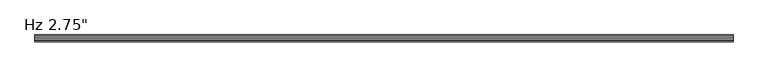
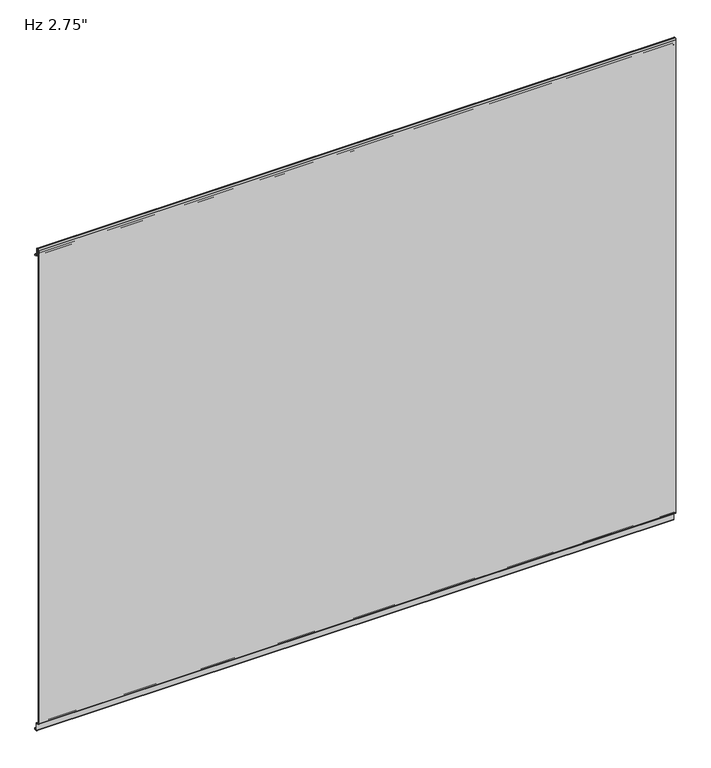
"""IFC4 building model written with IfcOpenShell, lengths in millimetres: plate geometry."""

from ifc_helpers import new_model, si_unit, frame, origin, place, context, project, spatial, polyline, circle_curve, source, transform, mapped, element, save
from ifc_brep_helpers import plane_surface, cylinder_surface, revolved_surface, advanced_brep


def plate_c9c1584d(model_context):
    return source(origin(), model_context, "Body", "AdvancedBrep", [
        advanced_brep(
        [(-730.0, -66.9223811, 3.8501063), (-730.0, -64.6308685, 3.8501063), (-730.0, -60.6535232, -0.1272391), (-730.0, -60.6535232, -15.7237514), (-730.0, -60.065666, -16.3116086), (-730.0, -56.9941346, -16.3116086), (-730.0, -56.4062635, -15.7237374), (-730.0, -56.4062635, -13.3687064), (-730.0, -55.4062599, -13.3687064), (-730.0, -55.4062599, -15.7237419), (-730.0, -56.9941364, -17.3116185), (-730.0, -60.0656851, -17.3116185), (-730.0, -61.6535616, -15.7237419), (-730.0, -61.6535616, -0.1273159), (-730.0, -64.6308302, 2.8499526), (-730.0, -66.922714, 2.8499526), (-730.0, -69.8999825, 5.8272211), (-730.0, -69.9, 1150.8100652), (-730.0, -66.9227315, 1153.7873337), (-730.0, -65.8806329, 1153.7873337), (-730.0, -62.9033644, 1150.8100652), (-730.0, -62.9033644, 1136.6216801), (-730.0, -61.3154878, 1135.0338036), (-730.0, -56.9950697, 1135.0338036), (-730.0, -55.4066023, 1133.3929042), (-730.0, -55.4066023, 1131.0482432), (-730.0, -56.4060472, 1131.0482432), (-730.0, -56.4060472, 1133.4253599), (-730.0, -56.9950842, 1134.0338971), (-730.0, -61.3153166, 1134.0338971), (-730.0, -63.9030166, 1136.6215971), (-730.0, -63.9030166, 1150.8107568), (-730.0, -65.880978, 1152.7887182), (-730.0, -66.92341, 1152.7887182), (-730.0, -68.8992912, 1150.812837), (-730.0, -68.8992912, 5.8270163), (730.0, -66.9223811, 3.8501063), (730.0, -68.8992912, 5.8270163), (730.0, -68.8992912, 1150.812837), (730.0, -66.92341, 1152.7887182), (730.0, -65.880978, 1152.7887182), (730.0, -63.9030166, 1150.8107568), (730.0, -63.9030166, 1136.6215971), (730.0, -61.3153166, 1134.0338971), (730.0, -56.9950842, 1134.0338971), (730.0, -56.4060472, 1133.4253599), (730.0, -56.4060472, 1131.0482432), (730.0, -55.4066023, 1131.0482432), (730.0, -55.4066023, 1133.3929042), (730.0, -56.9950697, 1135.0338036), (730.0, -61.3154878, 1135.0338036), (730.0, -62.9033644, 1136.6216801), (730.0, -62.9033644, 1150.8100652), (730.0, -65.8806329, 1153.7873337), (730.0, -66.9227315, 1153.7873337), (730.0, -69.9, 1150.8100652), (730.0, -69.9, 5.8272211), (730.0, -66.922714, 2.8499526), (730.0, -64.6308302, 2.8499526), (730.0, -61.6535616, -0.1273159), (730.0, -61.6535616, -15.7237419), (730.0, -60.0656851, -17.3116185), (730.0, -56.9941364, -17.3116185), (730.0, -55.4062599, -15.7237419), (730.0, -55.4062599, -13.3687064), (730.0, -56.4062635, -13.3687064), (730.0, -56.4062635, -15.7237374), (730.0, -56.9941346, -16.3116086), (730.0, -60.065666, -16.3116086), (730.0, -60.6535232, -15.7237514), (730.0, -60.6535232, -0.1272391), (730.0, -64.6308685, 3.8501063)],
        [
            (0, 1),
            (1, 2, circle_curve(frame((-730.0, -64.6308685, -0.1272391), z_axis=(-1.0, 0.0, 0.0), x_axis=(0.0, 0.0, -1.0)), 3.9773454)),
            (2, 3),
            (3, 4, circle_curve(frame((-730.0, -60.065666, -15.7237514), z_axis=(1.0, 0.0, 0.0), x_axis=(0.0, 0.0, -1.0)), 0.5878572)),
            (4, 5),
            (5, 6, circle_curve(frame((-730.0, -56.9941346, -15.7237374), z_axis=(1.0, 0.0, 0.0), x_axis=(0.0, 0.0, -1.0)), 0.5878711)),
            (6, 7),
            (7, 8),
            (8, 9),
            (9, 10, circle_curve(frame((-730.0, -56.9941364, -15.7237419), z_axis=(-1.0, 0.0, 0.0), x_axis=(0.0, 0.0, -1.0)), 1.5878765)),
            (10, 11),
            (11, 12, circle_curve(frame((-730.0, -60.0656851, -15.7237419), z_axis=(-1.0, 0.0, 0.0), x_axis=(0.0, 0.0, -1.0)), 1.5878765)),
            (12, 13),
            (13, 14, circle_curve(frame((-730.0, -64.6308302, -0.1273159), z_axis=(1.0, 0.0, 0.0), x_axis=(0.0, 0.0, -1.0)), 2.9772685)),
            (14, 15),
            (15, 16, circle_curve(frame((-730.0, -66.922714, 5.8272211), z_axis=(-1.0, 0.0, 0.0), x_axis=(0.0, 0.0, -1.0)), 2.9772685)),
            (16, 17),
            (17, 18, circle_curve(frame((-730.0, -66.9227315, 1150.8100652), z_axis=(-1.0, 0.0, 0.0), x_axis=(0.0, 0.0, -1.0)), 2.9772685)),
            (18, 19),
            (19, 20, circle_curve(frame((-730.0, -65.8806329, 1150.8100652), z_axis=(-1.0, 0.0, 0.0), x_axis=(0.0, 0.0, -1.0)), 2.9772685)),
            (20, 21),
            (21, 22, circle_curve(frame((-730.0, -61.3154878, 1136.6216801), z_axis=(1.0, 0.0, 0.0), x_axis=(0.0, 0.0, -1.0)), 1.5878765)),
            (22, 23),
            (23, 24, circle_curve(frame((-730.0, -56.9950697, 1133.4444985), z_axis=(-1.0, 0.0, 0.0), x_axis=(0.0, 0.0, -1.0)), 1.5893051)),
            (24, 25),
            (25, 26),
            (26, 27),
            (27, 28, circle_curve(frame((-730.0, -56.9950842, 1133.4445477), z_axis=(1.0, 0.0, 0.0), x_axis=(0.0, 0.0, -1.0)), 0.5893495)),
            (28, 29),
            (29, 30, circle_curve(frame((-730.0, -61.3153166, 1136.6215971), z_axis=(-1.0, 0.0, 0.0), x_axis=(0.0, 0.0, -1.0)), 2.5877)),
            (30, 31),
            (31, 32, circle_curve(frame((-730.0, -65.880978, 1150.8107568), z_axis=(1.0, 0.0, 0.0), x_axis=(0.0, 0.0, -1.0)), 1.9779614)),
            (32, 33),
            (33, 34, circle_curve(frame((-730.0, -66.92341, 1150.812837), z_axis=(1.0, 0.0, 0.0), x_axis=(0.0, 0.0, -1.0)), 1.9758812)),
            (34, 35),
            (35, 0, circle_curve(frame((-730.0, -66.9223811, 5.8270163), z_axis=(1.0, 0.0, 0.0), x_axis=(0.0, 0.0, -1.0)), 1.9769101)),
            (36, 37, circle_curve(frame((730.0, -66.9223811, 5.8270163), z_axis=(-1.0, 0.0, 0.0), x_axis=(0.0, 0.0, -1.0)), 1.9769101)),
            (37, 38),
            (38, 39, circle_curve(frame((730.0, -66.92341, 1150.812837), z_axis=(-1.0, 0.0, 0.0), x_axis=(0.0, 0.0, -1.0)), 1.9758812)),
            (39, 40),
            (40, 41, circle_curve(frame((730.0, -65.880978, 1150.8107568), z_axis=(-1.0, 0.0, 0.0), x_axis=(0.0, 0.0, -1.0)), 1.9779614)),
            (41, 42),
            (42, 43, circle_curve(frame((730.0, -61.3153166, 1136.6215971), z_axis=(1.0, 0.0, 0.0), x_axis=(0.0, 0.0, -1.0)), 2.5877)),
            (43, 44),
            (44, 45, circle_curve(frame((730.0, -56.9950842, 1133.4445477), z_axis=(-1.0, 0.0, 0.0), x_axis=(0.0, 0.0, -1.0)), 0.5893495)),
            (45, 46),
            (46, 47),
            (47, 48),
            (48, 49, circle_curve(frame((730.0, -56.9950697, 1133.4444985), z_axis=(1.0, 0.0, 0.0), x_axis=(0.0, 0.0, -1.0)), 1.5893051)),
            (49, 50),
            (50, 51, circle_curve(frame((730.0, -61.3154878, 1136.6216801), z_axis=(-1.0, 0.0, 0.0), x_axis=(0.0, 0.0, -1.0)), 1.5878765)),
            (51, 52),
            (52, 53, circle_curve(frame((730.0, -65.8806329, 1150.8100652), z_axis=(1.0, 0.0, 0.0), x_axis=(0.0, 0.0, -1.0)), 2.9772685)),
            (53, 54),
            (54, 55, circle_curve(frame((730.0, -66.9227315, 1150.8100652), z_axis=(1.0, 0.0, 0.0), x_axis=(0.0, 0.0, -1.0)), 2.9772685)),
            (55, 56),
            (56, 57, circle_curve(frame((730.0, -66.922714, 5.8272211), z_axis=(1.0, 0.0, 0.0), x_axis=(0.0, 0.0, -1.0)), 2.9772685)),
            (57, 58),
            (58, 59, circle_curve(frame((730.0, -64.6308302, -0.1273159), z_axis=(-1.0, 0.0, 0.0), x_axis=(0.0, 0.0, -1.0)), 2.9772685)),
            (59, 60),
            (60, 61, circle_curve(frame((730.0, -60.0656851, -15.7237419), z_axis=(1.0, 0.0, 0.0), x_axis=(0.0, 0.0, -1.0)), 1.5878765)),
            (61, 62),
            (62, 63, circle_curve(frame((730.0, -56.9941364, -15.7237419), z_axis=(1.0, 0.0, 0.0), x_axis=(0.0, 0.0, -1.0)), 1.5878765)),
            (63, 64),
            (64, 65),
            (65, 66),
            (66, 67, circle_curve(frame((730.0, -56.9941346, -15.7237374), z_axis=(-1.0, 0.0, 0.0), x_axis=(0.0, 0.0, -1.0)), 0.5878711)),
            (67, 68),
            (68, 69, circle_curve(frame((730.0, -60.065666, -15.7237514), z_axis=(-1.0, 0.0, 0.0), x_axis=(0.0, 0.0, -1.0)), 0.5878572)),
            (69, 70),
            (70, 71, circle_curve(frame((730.0, -64.6308685, -0.1272391), z_axis=(1.0, 0.0, 0.0), x_axis=(0.0, 0.0, -1.0)), 3.9773454)),
            (71, 36),
            (35, 37),
            (36, 0),
            (34, 38),
            (33, 39),
            (32, 40),
            (31, 41),
            (30, 42),
            (29, 43),
            (28, 44),
            (27, 45),
            (26, 46),
            (25, 47),
            (24, 48),
            (23, 49),
            (22, 50),
            (21, 51),
            (20, 52),
            (19, 53),
            (18, 54),
            (17, 55),
            (16, 56),
            (15, 57),
            (14, 58),
            (13, 59),
            (12, 60),
            (11, 61),
            (10, 62),
            (9, 63),
            (8, 64),
            (7, 65),
            (6, 66),
            (5, 67),
            (4, 68),
            (3, 69),
            (2, 70),
            (1, 71),
        ],
        [
            plane_surface(frame((-730.0, -69.9, 576.2625), z_axis=(-1.0, 0.0, 0.0), x_axis=(0.0, -1.0, 0.0))),
            plane_surface(frame((730.0, -69.9, 576.2625), z_axis=(1.0, 0.0, 0.0), x_axis=(0.0, -1.0, 0.0))),
            revolved_surface(polyline([(730.0, -66.9223811, 3.8501062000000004), (-730.0, -66.9223811, 3.8501062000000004)]), (-730.0, -66.9223811, 5.8270163), (1.0, 0.0, 0.0)),
            plane_surface(frame((-730.0, -68.8992912, 5.8270163), z_axis=(0.0, 1.0, 0.0), x_axis=(1.0, 0.0, 0.0))),
            revolved_surface(polyline([(730.0, -66.92341, 1148.8369558), (-730.0, -66.92341, 1148.8369558)]), (-730.0, -66.92341, 1150.812837), (1.0, 0.0, 0.0)),
            plane_surface(frame((-730.0, -66.92341, 1152.7887182), z_axis=(0.0, 0.0, -1.0), x_axis=(1.0, 0.0, 0.0))),
            revolved_surface(polyline([(730.0, -65.880978, 1148.8327954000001), (-730.0, -65.880978, 1148.8327954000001)]), (-730.0, -65.880978, 1150.8107568), (1.0, 0.0, 0.0)),
            plane_surface(frame((-730.0, -63.9030166, 1150.8107568), z_axis=(0.0, -1.0, 0.0), x_axis=(1.0, 0.0, 0.0))),
            cylinder_surface(frame((-730.0, -61.3153166, 1136.6215971), z_axis=(-1.0, 0.0, 0.0), x_axis=(0.0, 0.0, -1.0)), 2.5877),
            plane_surface(frame((-730.0, -61.3153166, 1134.0338971), z_axis=(0.0, 0.0, -1.0), x_axis=(1.0, 0.0, 0.0))),
            revolved_surface(polyline([(730.0, -56.9950842, 1132.8551982), (-730.0, -56.9950842, 1132.8551982)]), (-730.0, -56.9950842, 1133.4445477), (1.0, 0.0, 0.0)),
            plane_surface(frame((-730.0, -56.4060472, 1133.4253599), z_axis=(0.0, -1.0, 0.0), x_axis=(1.0, 0.0, 0.0))),
            plane_surface(frame((-730.0, -56.4060472, 1131.0482432), z_axis=(0.0, 0.0, -1.0), x_axis=(1.0, 0.0, 0.0))),
            plane_surface(frame((-730.0, -55.4066023, 1131.0482432), z_axis=(0.0, 1.0, 0.0), x_axis=(1.0, 0.0, 0.0))),
            cylinder_surface(frame((-730.0, -56.9950697, 1133.4444985), z_axis=(-1.0, 0.0, 0.0), x_axis=(0.0, 0.0, -1.0)), 1.5893051),
            plane_surface(frame((-730.0, -56.9950697, 1135.0338036), z_axis=(0.0, 0.0, 1.0), x_axis=(1.0, 0.0, 0.0))),
            revolved_surface(polyline([(730.0, -61.3154878, 1135.0338036), (-730.0, -61.3154878, 1135.0338036)]), (-730.0, -61.3154878, 1136.6216801), (1.0, 0.0, 0.0)),
            plane_surface(frame((-730.0, -62.9033644, 1136.6216801), z_axis=(0.0, 1.0, 0.0), x_axis=(1.0, 0.0, 0.0))),
            cylinder_surface(frame((-730.0, -65.8806329, 1150.8100652), z_axis=(-1.0, 0.0, 0.0), x_axis=(0.0, 0.0, -1.0)), 2.9772685),
            plane_surface(frame((-730.0, -65.8806329, 1153.7873337), z_axis=(0.0, 0.0, 1.0), x_axis=(1.0, 0.0, 0.0))),
            cylinder_surface(frame((-730.0, -66.9227315, 1150.8100652), z_axis=(-1.0, 0.0, 0.0), x_axis=(0.0, 0.0, -1.0)), 2.9772685),
            plane_surface(frame((-730.0, -69.9, 1150.8100652), z_axis=(0.0, -1.0, 0.0), x_axis=(1.0, 0.0, 0.0))),
            cylinder_surface(frame((-730.0, -66.922714, 5.8272211), z_axis=(-1.0, 0.0, 0.0), x_axis=(0.0, 0.0, -1.0)), 2.9772685),
            plane_surface(frame((-730.0, -66.922714, 2.8499526), z_axis=(0.0, 0.0, -1.0), x_axis=(1.0, 0.0, 0.0))),
            revolved_surface(polyline([(730.0, -64.6308302, -3.1045844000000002), (-730.0, -64.6308302, -3.1045844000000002)]), (-730.0, -64.6308302, -0.1273159), (1.0, 0.0, 0.0)),
            plane_surface(frame((-730.0, -61.6535616, -0.1273159), z_axis=(0.0, -1.0, 0.0), x_axis=(1.0, 0.0, 0.0))),
            cylinder_surface(frame((-730.0, -60.0656851, -15.7237419), z_axis=(-1.0, 0.0, 0.0), x_axis=(0.0, 0.0, -1.0)), 1.5878765),
            plane_surface(frame((-730.0, -60.0656851, -17.3116185), z_axis=(0.0, 0.0, -1.0), x_axis=(1.0, 0.0, 0.0))),
            cylinder_surface(frame((-730.0, -56.9941364, -15.7237419), z_axis=(-1.0, 0.0, 0.0), x_axis=(0.0, 0.0, -1.0)), 1.5878765),
            plane_surface(frame((-730.0, -55.4062599, -15.7237419), z_axis=(0.0, 1.0, 0.0), x_axis=(1.0, 0.0, 0.0))),
            plane_surface(frame((-730.0, -55.4062599, -13.3687064), z_axis=(0.0, 0.0, 1.0), x_axis=(1.0, 0.0, 0.0))),
            plane_surface(frame((-730.0, -56.4062635, -13.3687064), z_axis=(0.0, -1.0, 0.0), x_axis=(1.0, 0.0, 0.0))),
            revolved_surface(polyline([(730.0, -56.9941346, -16.3116085), (-730.0, -56.9941346, -16.3116085)]), (-730.0, -56.9941346, -15.7237374), (1.0, 0.0, 0.0)),
            plane_surface(frame((-730.0, -56.9941346, -16.3116086), z_axis=(0.0, 0.0, 1.0), x_axis=(1.0, 0.0, 0.0))),
            revolved_surface(polyline([(730.0, -60.065666, -16.3116086), (-730.0, -60.065666, -16.3116086)]), (-730.0, -60.065666, -15.7237514), (1.0, 0.0, 0.0)),
            plane_surface(frame((-730.0, -60.6535232, -15.7237514), z_axis=(0.0, 1.0, 0.0), x_axis=(1.0, 0.0, 0.0))),
            cylinder_surface(frame((-730.0, -64.6308685, -0.1272391), z_axis=(-1.0, 0.0, 0.0), x_axis=(0.0, 0.0, -1.0)), 3.9773454),
            plane_surface(frame((-730.0, -64.6308685, 3.8501063), z_axis=(0.0, 0.0, 1.0), x_axis=(1.0, 0.0, 0.0))),
        ],
        [
            (0, [[1, 2, 3, 4, 5, 6, 7, 8, 9, 10, 11, 12, 13, 14, 15, 16, 17, 18, 19, 20, 21, 22, 23, 24, 25, 26, 27, 28, 29, 30, 31, 32, 33, 34, 35, 36]]),
            (1, [[37, 38, 39, 40, 41, 42, 43, 44, 45, 46, 47, 48, 49, 50, 51, 52, 53, 54, 55, 56, 57, 58, 59, 60, 61, 62, 63, 64, 65, 66, 67, 68, 69, 70, 71, 72]]),
            (2, [[73, -37, 74, -36]]),
            (3, [[75, -38, -73, -35]]),
            (4, [[76, -39, -75, -34]]),
            (5, [[77, -40, -76, -33]]),
            (6, [[78, -41, -77, -32]]),
            (7, [[79, -42, -78, -31]]),
            (8, [[80, -43, -79, -30]]),
            (9, [[81, -44, -80, -29]]),
            (10, [[82, -45, -81, -28]]),
            (11, [[83, -46, -82, -27]]),
            (12, [[84, -47, -83, -26]]),
            (13, [[85, -48, -84, -25]]),
            (14, [[86, -49, -85, -24]]),
            (15, [[87, -50, -86, -23]]),
            (16, [[88, -51, -87, -22]]),
            (17, [[89, -52, -88, -21]]),
            (18, [[90, -53, -89, -20]]),
            (19, [[91, -54, -90, -19]]),
            (20, [[92, -55, -91, -18]]),
            (21, [[93, -56, -92, -17]]),
            (22, [[94, -57, -93, -16]]),
            (23, [[95, -58, -94, -15]]),
            (24, [[96, -59, -95, -14]]),
            (25, [[97, -60, -96, -13]]),
            (26, [[98, -61, -97, -12]]),
            (27, [[99, -62, -98, -11]]),
            (28, [[100, -63, -99, -10]]),
            (29, [[101, -64, -100, -9]]),
            (30, [[102, -65, -101, -8]]),
            (31, [[103, -66, -102, -7]]),
            (32, [[104, -67, -103, -6]]),
            (33, [[105, -68, -104, -5]]),
            (34, [[106, -69, -105, -4]]),
            (35, [[107, -70, -106, -3]]),
            (36, [[108, -71, -107, -2]]),
            (37, [[-74, -72, -108, -1]]),
        ],
    ),
    ])


if __name__ == "__main__":
    model = new_model("IFC4")
    model_context = context("Model", 3, world=origin())
    ifc_project = project(units=[si_unit("LENGTHUNIT", "METRE", prefix="MILLI")], contexts=[model_context])
    site = spatial("IfcSite", under=ifc_project)
    building = spatial("IfcBuilding", under=site)
    placement = place(None, origin())
    plate_shape = plate_c9c1584d(model_context)
    element("IfcPlate", 1, ObjectType="KIP-SLI-FLI-R19-CP-Hz-FL_SL : Hz 2.75\"", at=placement, inside=building, context=model_context, shape_type="MappedRepresentation", body=[
        mapped(plate_shape, transform((0.0, 0.0, 0.0), x_axis=(1.0, 0.0, 0.0), y_axis=(0.0, 1.0, 0.0), z_axis=(0.0, 0.0, 1.0))),
    ])
    save(model, "model.ifc")
